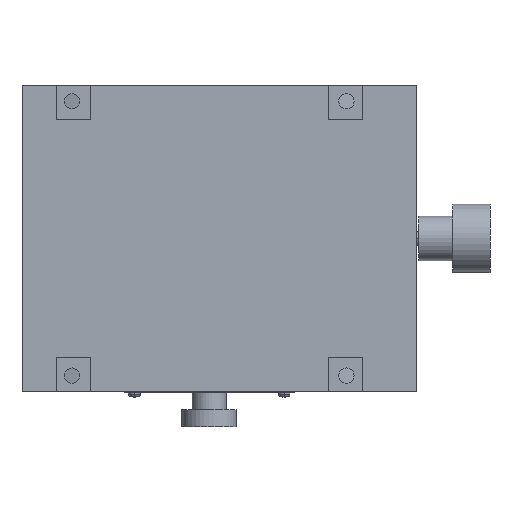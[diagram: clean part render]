
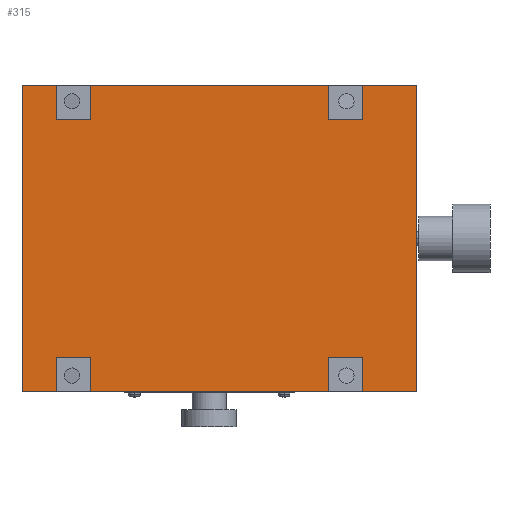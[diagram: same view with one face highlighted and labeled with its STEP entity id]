
A CAD part, front view. The second image highlights one B-rep face of the part: STEP entity #315.
In plain terms, the highlighted planar face has unit normal (0, -1, 0).
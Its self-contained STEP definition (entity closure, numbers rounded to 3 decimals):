
#26 = EDGE_CURVE ( 'NONE', #27, #28, #2454, .T. ) ;
#27 = VERTEX_POINT ( 'NONE', #2450 ) ;
#28 = VERTEX_POINT ( 'NONE', #2449 ) ;
#32 = EDGE_CURVE ( 'NONE', #49, #140, #2444, .T. ) ;
#38 = EDGE_CURVE ( 'NONE', #39, #40, #2430, .T. ) ;
#39 = VERTEX_POINT ( 'NONE', #2648 ) ;
#40 = VERTEX_POINT ( 'NONE', #2647 ) ;
#48 = EDGE_CURVE ( 'NONE', #49, #27, #2641, .T. ) ;
#49 = VERTEX_POINT ( 'NONE', #2637 ) ;
#106 = EDGE_CURVE ( 'NONE', #447, #130, #2470, .T. ) ;
#111 = EDGE_CURVE ( 'NONE', #112, #116, #2608, .T. ) ;
#112 = VERTEX_POINT ( 'NONE', #2604 ) ;
#116 = VERTEX_POINT ( 'NONE', #2594 ) ;
#118 = EDGE_CURVE ( 'NONE', #119, #116, #2593, .T. ) ;
#119 = VERTEX_POINT ( 'NONE', #2589 ) ;
#130 = VERTEX_POINT ( 'NONE', #2726 ) ;
#132 = EDGE_CURVE ( 'NONE', #133, #130, #2791, .T. ) ;
#133 = VERTEX_POINT ( 'NONE', #2826 ) ;
#140 = VERTEX_POINT ( 'NONE', #2825 ) ;
#144 = EDGE_CURVE ( 'NONE', #163, #145, #2857, .T. ) ;
#145 = VERTEX_POINT ( 'NONE', #2853 ) ;
#162 = EDGE_CURVE ( 'NONE', #163, #39, #2754, .T. ) ;
#163 = VERTEX_POINT ( 'NONE', #2750 ) ;
#168 = VERTEX_POINT ( 'NONE', #2739 ) ;
#197 = EDGE_CURVE ( 'NONE', #168, #119, #2733, .T. ) ;
#238 = VERTEX_POINT ( 'NONE', #2886 ) ;
#240 = EDGE_CURVE ( 'NONE', #241, #238, #2885, .T. ) ;
#241 = VERTEX_POINT ( 'NONE', #2881 ) ;
#315 = ADVANCED_FACE ( 'NONE', ( #2993 ), #2992, .F. ) ;
#316 = ORIENTED_EDGE ( 'NONE', *, *, #486, .T. ) ;
#317 = ORIENTED_EDGE ( 'NONE', *, *, #318, .F. ) ;
#318 = EDGE_CURVE ( 'NONE', #168, #447, #2987, .T. ) ;
#319 = ORIENTED_EDGE ( 'NONE', *, *, #197, .T. ) ;
#320 = ORIENTED_EDGE ( 'NONE', *, *, #118, .T. ) ;
#321 = ORIENTED_EDGE ( 'NONE', *, *, #111, .F. ) ;
#322 = ORIENTED_EDGE ( 'NONE', *, *, #323, .F. ) ;
#323 = EDGE_CURVE ( 'NONE', #241, #112, #2983, .T. ) ;
#324 = ORIENTED_EDGE ( 'NONE', *, *, #240, .T. ) ;
#373 = ORIENTED_EDGE ( 'NONE', *, *, #471, .T. ) ;
#374 = ORIENTED_EDGE ( 'NONE', *, *, #144, .F. ) ;
#375 = ORIENTED_EDGE ( 'NONE', *, *, #162, .T. ) ;
#376 = ORIENTED_EDGE ( 'NONE', *, *, #38, .T. ) ;
#377 = ORIENTED_EDGE ( 'NONE', *, *, #466, .T. ) ;
#378 = ORIENTED_EDGE ( 'NONE', *, *, #32, .F. ) ;
#379 = ORIENTED_EDGE ( 'NONE', *, *, #48, .T. ) ;
#380 = ORIENTED_EDGE ( 'NONE', *, *, #26, .T. ) ;
#383 = ORIENTED_EDGE ( 'NONE', *, *, #384, .F. ) ;
#384 = EDGE_CURVE ( 'NONE', #385, #484, #3134, .T. ) ;
#385 = VERTEX_POINT ( 'NONE', #3130 ) ;
#427 = ORIENTED_EDGE ( 'NONE', *, *, #428, .F. ) ;
#428 = EDGE_CURVE ( 'NONE', #522, #385, #3044, .T. ) ;
#429 = ORIENTED_EDGE ( 'NONE', *, *, #521, .T. ) ;
#430 = ORIENTED_EDGE ( 'NONE', *, *, #132, .T. ) ;
#431 = ORIENTED_EDGE ( 'NONE', *, *, #106, .F. ) ;
#444 = EDGE_LOOP ( 'NONE', ( #316, #383, #427, #429, #430, #431, #317, #319, #320, #321, #322, #324, #373, #374, #375, #376, #377, #378, #379, #380 ) ) ;
#447 = VERTEX_POINT ( 'NONE', #2957 ) ;
#466 = EDGE_CURVE ( 'NONE', #40, #140, #3146, .T. ) ;
#471 = EDGE_CURVE ( 'NONE', #238, #145, #3142, .T. ) ;
#484 = VERTEX_POINT ( 'NONE', #3052 ) ;
#486 = EDGE_CURVE ( 'NONE', #28, #484, #3050, .T. ) ;
#521 = EDGE_CURVE ( 'NONE', #522, #133, #3401, .T. ) ;
#522 = VERTEX_POINT ( 'NONE', #3397 ) ;
#2430 = LINE ( 'NONE', #2651, #2650 ) ;
#2441 = DIRECTION ( 'NONE',  ( 0., 0., -1. ) ) ;
#2442 = VECTOR ( 'NONE', #2441, 1000. ) ;
#2443 = CARTESIAN_POINT ( 'NONE',  ( 35., 0.5, 45. ) ) ;
#2444 = LINE ( 'NONE', #2443, #2442 ) ;
#2449 = CARTESIAN_POINT ( 'NONE',  ( 45., 0.5, -45. ) ) ;
#2450 = CARTESIAN_POINT ( 'NONE',  ( 45., 0.5, -35. ) ) ;
#2451 = DIRECTION ( 'NONE',  ( 0., 0., -1. ) ) ;
#2452 = VECTOR ( 'NONE', #2451, 1000. ) ;
#2453 = CARTESIAN_POINT ( 'NONE',  ( 45., 0.5, 45. ) ) ;
#2454 = LINE ( 'NONE', #2453, #2452 ) ;
#2468 = DIRECTION ( 'NONE',  ( 0., 0., -1. ) ) ;
#2469 = CARTESIAN_POINT ( 'NONE',  ( 35., 0.5, 45. ) ) ;
#2470 = LINE ( 'NONE', #2469, #2619 ) ;
#2589 = CARTESIAN_POINT ( 'NONE',  ( -35., 0.5, 35. ) ) ;
#2590 = DIRECTION ( 'NONE',  ( -1., 0., 0. ) ) ;
#2591 = VECTOR ( 'NONE', #2590, 1000. ) ;
#2592 = CARTESIAN_POINT ( 'NONE',  ( -45., 0.5, 35. ) ) ;
#2593 = LINE ( 'NONE', #2592, #2591 ) ;
#2594 = CARTESIAN_POINT ( 'NONE',  ( -45., 0.5, 35. ) ) ;
#2604 = CARTESIAN_POINT ( 'NONE',  ( -45., 0.5, 45. ) ) ;
#2605 = DIRECTION ( 'NONE',  ( 0., 0., -1. ) ) ;
#2606 = VECTOR ( 'NONE', #2605, 1000. ) ;
#2607 = CARTESIAN_POINT ( 'NONE',  ( -45., 0.5, 45. ) ) ;
#2608 = LINE ( 'NONE', #2607, #2606 ) ;
#2619 = VECTOR ( 'NONE', #2468, 1000. ) ;
#2637 = CARTESIAN_POINT ( 'NONE',  ( 35., 0.5, -35. ) ) ;
#2638 = DIRECTION ( 'NONE',  ( 1., 0., 0. ) ) ;
#2639 = VECTOR ( 'NONE', #2638, 1000. ) ;
#2640 = CARTESIAN_POINT ( 'NONE',  ( 45., 0.5, -35. ) ) ;
#2641 = LINE ( 'NONE', #2640, #2639 ) ;
#2647 = CARTESIAN_POINT ( 'NONE',  ( -35., 0.5, -45. ) ) ;
#2648 = CARTESIAN_POINT ( 'NONE',  ( -35., 0.5, -35. ) ) ;
#2649 = DIRECTION ( 'NONE',  ( 0., 0., -1. ) ) ;
#2650 = VECTOR ( 'NONE', #2649, 1000. ) ;
#2651 = CARTESIAN_POINT ( 'NONE',  ( -35., 0.5, 45. ) ) ;
#2652 = DIRECTION ( 'NONE',  ( -1., 0., 0. ) ) ;
#2653 = VECTOR ( 'NONE', #2652, 1000. ) ;
#2654 = CARTESIAN_POINT ( 'NONE',  ( 45., 0.5, 35. ) ) ;
#2726 = CARTESIAN_POINT ( 'NONE',  ( 35., 0.5, 35. ) ) ;
#2730 = DIRECTION ( 'NONE',  ( 0., 0., -1. ) ) ;
#2731 = VECTOR ( 'NONE', #2730, 1000. ) ;
#2732 = CARTESIAN_POINT ( 'NONE',  ( -35., 0.5, 45. ) ) ;
#2733 = LINE ( 'NONE', #2732, #2731 ) ;
#2739 = CARTESIAN_POINT ( 'NONE',  ( -35., 0.5, 45. ) ) ;
#2750 = CARTESIAN_POINT ( 'NONE',  ( -45., 0.5, -35. ) ) ;
#2751 = DIRECTION ( 'NONE',  ( 1., 0., 0. ) ) ;
#2752 = VECTOR ( 'NONE', #2751, 1000. ) ;
#2753 = CARTESIAN_POINT ( 'NONE',  ( -45., 0.5, -35. ) ) ;
#2754 = LINE ( 'NONE', #2753, #2752 ) ;
#2791 = LINE ( 'NONE', #2654, #2653 ) ;
#2825 = CARTESIAN_POINT ( 'NONE',  ( 35., 0.5, -45. ) ) ;
#2826 = CARTESIAN_POINT ( 'NONE',  ( 45., 0.5, 35. ) ) ;
#2853 = CARTESIAN_POINT ( 'NONE',  ( -45., 0.5, -45. ) ) ;
#2854 = DIRECTION ( 'NONE',  ( 0., 0., -1. ) ) ;
#2855 = VECTOR ( 'NONE', #2854, 1000. ) ;
#2856 = CARTESIAN_POINT ( 'NONE',  ( -45., 0.5, 45. ) ) ;
#2857 = LINE ( 'NONE', #2856, #2855 ) ;
#2881 = CARTESIAN_POINT ( 'NONE',  ( -55., 0.5, 45. ) ) ;
#2882 = DIRECTION ( 'NONE',  ( 0., 0., -1. ) ) ;
#2883 = VECTOR ( 'NONE', #2882, 1000. ) ;
#2884 = CARTESIAN_POINT ( 'NONE',  ( -55., 0.5, 45. ) ) ;
#2885 = LINE ( 'NONE', #2884, #2883 ) ;
#2886 = CARTESIAN_POINT ( 'NONE',  ( -55., 0.5, -45. ) ) ;
#2957 = CARTESIAN_POINT ( 'NONE',  ( 35., 0.5, 45. ) ) ;
#2980 = DIRECTION ( 'NONE',  ( 1., 0., 0. ) ) ;
#2981 = VECTOR ( 'NONE', #2980, 1000. ) ;
#2982 = CARTESIAN_POINT ( 'NONE',  ( -45., 0.5, 45. ) ) ;
#2983 = LINE ( 'NONE', #2982, #2981 ) ;
#2984 = DIRECTION ( 'NONE',  ( 1., 0., 0. ) ) ;
#2985 = VECTOR ( 'NONE', #2984, 1000. ) ;
#2986 = CARTESIAN_POINT ( 'NONE',  ( -35., 0.5, 45. ) ) ;
#2987 = LINE ( 'NONE', #2986, #2985 ) ;
#2988 = DIRECTION ( 'NONE',  ( 0., 0., 1. ) ) ;
#2989 = DIRECTION ( 'NONE',  ( 0., 1., 0. ) ) ;
#2990 = CARTESIAN_POINT ( 'NONE',  ( 45., 0.5, 45. ) ) ;
#2991 = AXIS2_PLACEMENT_3D ( 'NONE', #2990, #2989, #2988 ) ;
#2992 = PLANE ( 'NONE',  #2991 ) ;
#2993 = FACE_OUTER_BOUND ( 'NONE', #444, .T. ) ;
#3041 = DIRECTION ( 'NONE',  ( 1., 0., 0. ) ) ;
#3042 = VECTOR ( 'NONE', #3041, 1000. ) ;
#3043 = CARTESIAN_POINT ( 'NONE',  ( 45., 0.5, 45. ) ) ;
#3044 = LINE ( 'NONE', #3043, #3042 ) ;
#3047 = DIRECTION ( 'NONE',  ( 1., 0., 0. ) ) ;
#3048 = VECTOR ( 'NONE', #3047, 1000. ) ;
#3049 = CARTESIAN_POINT ( 'NONE',  ( 45., 0.5, -45. ) ) ;
#3050 = LINE ( 'NONE', #3049, #3048 ) ;
#3052 = CARTESIAN_POINT ( 'NONE',  ( 61., 0.5, -45. ) ) ;
#3130 = CARTESIAN_POINT ( 'NONE',  ( 61., 0.5, 45. ) ) ;
#3131 = DIRECTION ( 'NONE',  ( 0., 0., -1. ) ) ;
#3132 = VECTOR ( 'NONE', #3131, 1000. ) ;
#3133 = CARTESIAN_POINT ( 'NONE',  ( 61., 0.5, 45. ) ) ;
#3134 = LINE ( 'NONE', #3133, #3132 ) ;
#3139 = DIRECTION ( 'NONE',  ( 1., 0., 0. ) ) ;
#3140 = VECTOR ( 'NONE', #3139, 1000. ) ;
#3141 = CARTESIAN_POINT ( 'NONE',  ( -45., 0.5, -45. ) ) ;
#3142 = LINE ( 'NONE', #3141, #3140 ) ;
#3143 = DIRECTION ( 'NONE',  ( 1., 0., 0. ) ) ;
#3144 = VECTOR ( 'NONE', #3143, 1000. ) ;
#3145 = CARTESIAN_POINT ( 'NONE',  ( -35., 0.5, -45. ) ) ;
#3146 = LINE ( 'NONE', #3145, #3144 ) ;
#3397 = CARTESIAN_POINT ( 'NONE',  ( 45., 0.5, 45. ) ) ;
#3398 = DIRECTION ( 'NONE',  ( 0., 0., -1. ) ) ;
#3399 = VECTOR ( 'NONE', #3398, 1000. ) ;
#3400 = CARTESIAN_POINT ( 'NONE',  ( 45., 0.5, 45. ) ) ;
#3401 = LINE ( 'NONE', #3400, #3399 ) ;
